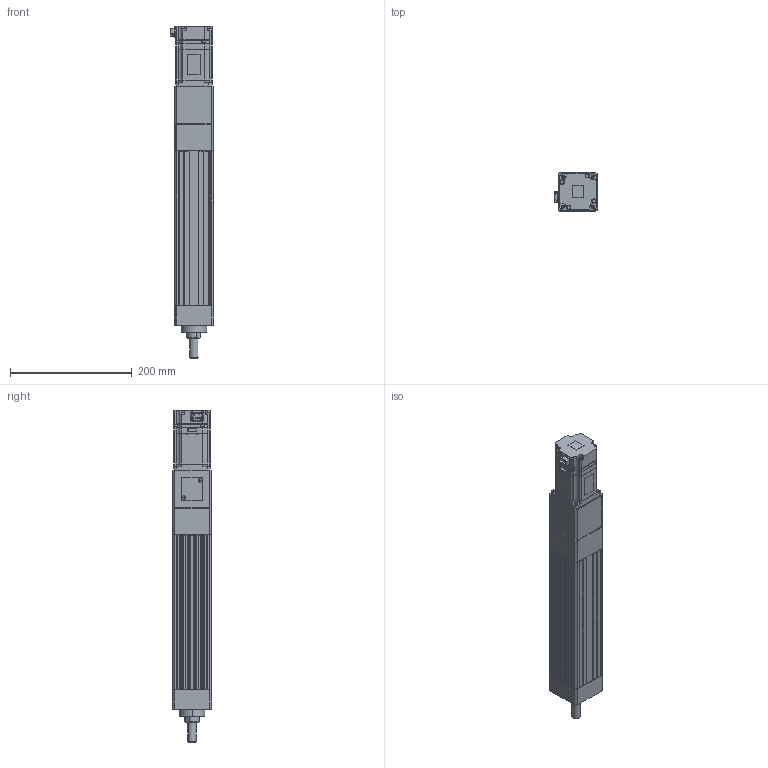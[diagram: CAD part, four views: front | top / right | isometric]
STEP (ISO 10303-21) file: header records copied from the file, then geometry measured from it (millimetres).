
FILE_DESCRIPTION (( 'STEP AP203' ), '1' );
FILE_NAME ('ANS065R-S150-05(10)(20)-W40-M.STEP', '2019-03-02T12:16:39', ( 'user' ), ( '' ), 'SwSTEP 2.0', 'SolidWorks 2013', '' );
FILE_SCHEMA (( 'CONFIG_CONTROL_DESIGN' ));
Length unit declared in the file: millimetre
Products named in the file (4): ANS065R S150 VER2; sgmjv_04a_a21; ANS065 ROD ST150-M; ANS065R-S150-05(10)(20)-W40-M
Assembly tree (3 placements, depth 2):
  ANS065R-S150-05(10)(20)-W40-M
    ANS065R S150 VER2
    sgmjv_04a_a21
    ANS065 ROD ST150-M
Bounding box: 71.3 x 65 x 544.6 mm (x, y, z)
Volume: 1344618.4 mm3; surface area: 278760.6 mm2
Topology: 3 solids, 7 shells, 1080 faces, 2853 edges, 1837 vertices
Faces by surface type: plane 636, cylinder 358, cone 86
Entity records: 33539 total; most frequent: CARTESIAN_POINT 5970, DIRECTION 5703, ORIENTED_EDGE 5658, EDGE_CURVE 2829, LINE 1999, VECTOR 1999, AXIS2_PLACEMENT_3D 1852, VERTEX_POINT 1837
